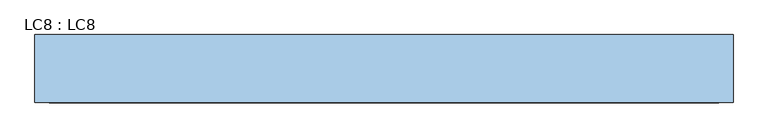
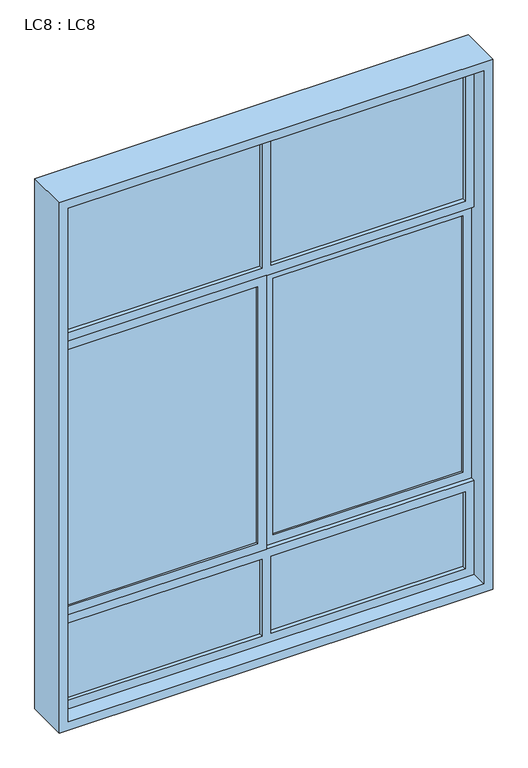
"""IFC4 building model written with IfcOpenShell, lengths in millimetres: window geometry, LC8 : LC8."""

import ifcopenshell
import ifcopenshell.guid

model = None  # the IFC model being written
_history = None  # IfcOwnerHistory: only IFC2X3 demands one
_inside = {}  # id of a spatial element -> (the spatial element, [elements in it])
_under = {}  # id of a project, library or spatial element -> (it, [spatial elements below it])
_declared = {}  # id of a project -> (the project, [libraries it declares])
_typed = {}  # id of a type object -> (the type object, [elements of that type])
_made_of = {}  # id of a material, layer set ... -> (it, [elements and type objects made of it])


def new_model(schema):
    """Start an empty IFC model of exactly this schema.

    Asked for "IFC4X3", IfcOpenShell would pick the latest addendum, in which some entities
    have other attributes; the version numbers below select the first issue.
    IFC2X3 requires an IfcOwnerHistory on every rooted entity: one is made here for all.
    """
    global model, _history
    if schema == "IFC4X3":
        model = ifcopenshell.file(schema_version=(4, 3, 0, 0))
    else:
        model = ifcopenshell.file(schema=schema)
    _inside.clear()
    _under.clear()
    _declared.clear()
    _typed.clear()
    _made_of.clear()
    _history = None
    if model.schema == "IFC2X3":
        org = make("IfcOrganization", Name="unknown")
        user = make(
            "IfcPersonAndOrganization",
            ThePerson=make("IfcPerson", FamilyName="unknown"),
            TheOrganization=org,
        )
        app = make(
            "IfcApplication",
            ApplicationDeveloper=org,
            Version="unknown",
            ApplicationFullName="unknown",
            ApplicationIdentifier="unknown",
        )
        _history = make(
            "IfcOwnerHistory",
            OwningUser=user,
            OwningApplication=app,
            ChangeAction="ADDED",
            CreationDate=0,
        )
    return model


def make(cls, **values):
    """One entity of the class cls with the attributes given. An attribute that is None is left unset."""
    return model.create_entity(
        cls, **{name: value for name, value in values.items() if value is not None}
    )


def rooted(cls, **values):
    """An entity with a GlobalId (a new one), such as an element, a storey or a relation."""
    return make(cls, GlobalId=ifcopenshell.guid.new(), OwnerHistory=_history, **values)


def si_unit(unit_type, name, prefix=None):
    """IfcSIUnit, for example si_unit("LENGTHUNIT", "METRE", prefix="MILLI")."""
    return make("IfcSIUnit", UnitType=unit_type, Prefix=prefix, Name=name)


def assignment(units):
    """IfcUnitAssignment: the units of a project."""
    return None if units is None else make("IfcUnitAssignment", Units=units)


def point(xyz):
    """IfcCartesianPoint."""
    return None if xyz is None else make("IfcCartesianPoint", Coordinates=xyz)


def direction(xyz):
    """IfcDirection."""
    return None if xyz is None else make("IfcDirection", DirectionRatios=xyz)


def frame(location, z_axis=None, x_axis=None):
    """IfcAxis2Placement3D, a coordinate frame: its origin and axes. An axis left out is left unset."""
    return make(
        "IfcAxis2Placement3D",
        Location=point(location),
        Axis=direction(z_axis),
        RefDirection=direction(x_axis),
    )


def origin():
    """The frame at (0, 0, 0) with its axes left unset."""
    return frame((0.0, 0.0, 0.0))


def place(relative_to, where):
    """IfcLocalPlacement: puts the frame where relative to a parent placement (None: the world)."""
    return make(
        "IfcLocalPlacement", PlacementRelTo=relative_to, RelativePlacement=where
    )


def context(
    kind, dimensions, precision=None, world=None, true_north=None, identifier=None
):
    """IfcGeometricRepresentationContext, for example the 3D "Model" context."""
    return make(
        "IfcGeometricRepresentationContext",
        ContextIdentifier=identifier,
        ContextType=kind,
        CoordinateSpaceDimension=dimensions,
        Precision=precision,
        WorldCoordinateSystem=world,
        TrueNorth=true_north,
    )


def project(units=None, contexts=None):
    """IfcProject with its units and contexts."""
    return rooted(
        "IfcProject",
        Name="project",
        RepresentationContexts=contexts,
        UnitsInContext=assignment(units),
    )


def spatial(cls, under=None, at=None, **own):
    """A site, building, storey or space (cls), placed at a placement, below another one or the project."""
    s = rooted(cls, ObjectPlacement=at, **own)
    if under is not None:
        _under.setdefault(under.id(), (under, []))[1].append(s)
    return s


def polyline(points):
    """IfcPolyline through the points."""
    return make("IfcPolyline", Points=[point(p) for p in points])


def outline(outer, holes=None, kind="AREA"):
    """IfcArbitraryClosedProfileDef: a profile drawn as a closed curve; with holes, ...WithVoids."""
    if holes is None:
        return make("IfcArbitraryClosedProfileDef", ProfileType=kind, OuterCurve=outer)
    return make(
        "IfcArbitraryProfileDefWithVoids",
        ProfileType=kind,
        OuterCurve=outer,
        InnerCurves=holes,
    )


def extrude(swept, where, along, depth):
    """IfcExtrudedAreaSolid: the profile swept, set in the frame where, extruded along a direction by depth."""
    return make(
        "IfcExtrudedAreaSolid",
        SweptArea=swept,
        Position=where,
        ExtrudedDirection=direction(along),
        Depth=depth,
    )


def shape(context_of_items, identifier, shape_type, items):
    """IfcShapeRepresentation: the items that make up one representation, for example the "Body"."""
    return make(
        "IfcShapeRepresentation",
        ContextOfItems=context_of_items,
        RepresentationIdentifier=identifier,
        RepresentationType=shape_type,
        Items=items,
    )


def source(mapping_origin, context_of_items, identifier, shape_type, items):
    """IfcRepresentationMap: a shape defined once, which mapped items show again and again."""
    return make(
        "IfcRepresentationMap",
        MappingOrigin=mapping_origin,
        MappedRepresentation=shape(context_of_items, identifier, shape_type, items),
    )


def transform(
    local_origin,
    x_axis=None,
    y_axis=None,
    z_axis=None,
    scale=None,
    scale2=None,
    scale3=None,
    uniform=True,
):
    """IfcCartesianTransformationOperator3D, or its non-uniform kind. x_axis, y_axis, z_axis: its Axis1, 2, 3."""
    if uniform:
        return make(
            "IfcCartesianTransformationOperator3D",
            Axis1=direction(x_axis),
            Axis2=direction(y_axis),
            LocalOrigin=point(local_origin),
            Scale=scale,
            Axis3=direction(z_axis),
        )
    return make(
        "IfcCartesianTransformationOperator3DnonUniform",
        Axis1=direction(x_axis),
        Axis2=direction(y_axis),
        LocalOrigin=point(local_origin),
        Scale=scale,
        Axis3=direction(z_axis),
        Scale2=scale2,
        Scale3=scale3,
    )


def mapped(mapping_source, mapping_target):
    """IfcMappedItem: shows the shape of a source again, moved by a transform."""
    return make(
        "IfcMappedItem", MappingSource=mapping_source, MappingTarget=mapping_target
    )


def made_of(thing, what):
    """Note that an element or type object is made of a material, layer set ...; save() writes the relation."""
    if what is not None:
        _made_of.setdefault(what.id(), (what, []))[1].append(thing)
    return thing


def element(
    cls,
    number,
    at=None,
    inside=None,
    cuts=None,
    type_object=None,
    material=None,
    context=None,
    identifier="Body",
    shape_type=None,
    held_by="IfcProductDefinitionShape",
    body=None,
    shapes=None,
    **own,
):
    """One element of the class cls, such as IfcWall. Its Tag is "e" and its number.

    at: its placement. inside: the storey or other place that contains it. cuts: it is an
    opening in that element (IfcRelVoidsElement). A single representation is given by context,
    identifier, shape_type and body (its items); several are given by shapes. held_by: the class
    of the entity that holds the representations. save() writes the other relations.
    """
    e = rooted(cls, Tag="e%d" % number, ObjectPlacement=at, **own)
    if body is not None:
        shapes = [shape(context, identifier, shape_type, body)]
    if shapes is not None:
        e.Representation = make(held_by, Representations=shapes)
    if inside is not None:
        _inside.setdefault(inside.id(), (inside, []))[1].append(e)
    if cuts is not None:
        rooted(
            "IfcRelVoidsElement", RelatingBuildingElement=cuts, RelatedOpeningElement=e
        )
    if type_object is not None:
        _typed.setdefault(type_object.id(), (type_object, []))[1].append(e)
    return made_of(e, material)


def aggregate(whole, parts):
    """IfcRelAggregates: a whole, such as a stair, and the parts it consists of."""
    return rooted("IfcRelAggregates", RelatingObject=whole, RelatedObjects=parts)


def save(model, path):
    """Write the relations noted so far, then the file.

    IfcRelAggregates (storeys below a building ...), IfcRelContainedInSpatialStructure (elements
    in a storey), IfcRelDefinesByType, IfcRelAssociatesMaterial and IfcRelDeclares: one each for
    every whole, place, type object, material and project.
    """
    for whole, parts in _under.values():
        aggregate(whole, parts)
    for where, things in _inside.values():
        rooted(
            "IfcRelContainedInSpatialStructure",
            RelatedElements=things,
            RelatingStructure=where,
        )
    for kind, things in _typed.values():
        rooted("IfcRelDefinesByType", RelatedObjects=things, RelatingType=kind)
    for what, things in _made_of.values():
        rooted("IfcRelAssociatesMaterial", RelatedObjects=things, RelatingMaterial=what)
    for by, libraries in _declared.values():
        rooted("IfcRelDeclares", RelatingContext=by, RelatedDefinitions=libraries)
    model.write(path)


def lc8_lc8_f37dbe4c(model_context):
    return source(origin(), model_context, "Body", "SweptSolid", [
        extrude(outline(polyline([(-25.0, -2.5), (-1100.0, -2.5), (-1100.0, 2.5), (-25.0, 2.5), (-25.0, -2.5)])), frame((0.0, 0.0, 2550.0), z_axis=(0.0, 0.0, 1.0), x_axis=(1.0, 0.0, 0.0)), (0.0, 0.0, 1.0), 750.0),
        extrude(outline(polyline([(1100.0, -2.5), (25.0, -2.5), (25.0, 2.5), (1100.0, 2.5), (1100.0, -2.5)])), frame((0.0, 0.0, 2550.0), z_axis=(0.0, 0.0, 1.0), x_axis=(1.0, 0.0, 0.0)), (0.0, 0.0, 1.0), 750.0),
        extrude(outline(polyline([(-25.0, -2.5), (-1100.0, -2.5), (-1100.0, 2.5), (-25.0, 2.5), (-25.0, -2.5)])), frame((0.0, 0.0, 400.0), z_axis=(0.0, 0.0, 1.0), x_axis=(1.0, 0.0, 0.0)), (0.0, 0.0, 1.0), 450.0),
        extrude(outline(polyline([(1100.0, -2.5), (25.0, -2.5), (25.0, 2.5), (1100.0, 2.5), (1100.0, -2.5)])), frame((0.0, 0.0, 400.0), z_axis=(0.0, 0.0, 1.0), x_axis=(1.0, 0.0, 0.0)), (0.0, 0.0, 1.0), 450.0),
        extrude(outline(polyline([(1100.0, 10.0), (50.0, 10.0), (50.0, 15.0), (1100.0, 15.0), (1100.0, 10.0)])), frame((0.0, 0.0, 950.0), z_axis=(0.0, 0.0, 1.0), x_axis=(1.0, 0.0, 0.0)), (0.0, 0.0, 1.0), 1500.0),
        extrude(outline(polyline([(-50.0, -15.0), (-1100.0, -15.0), (-1100.0, -10.0), (-50.0, -10.0), (-50.0, -15.0)])), frame((0.0, 0.0, 950.0), z_axis=(0.0, 0.0, 1.0), x_axis=(1.0, 0.0, 0.0)), (0.0, 0.0, 1.0), 1500.0),
        extrude(outline(polyline([(2500.0, 1150.0), (2500.0, 0.0), (900.0, 0.0), (900.0, 1150.0), (2500.0, 1150.0)]), holes=[polyline([(2450.0, 1100.0), (950.0, 1100.0), (950.0, 50.0), (2450.0, 50.0), (2450.0, 1100.0)])]), frame((0.0, 0.0, 0.0), z_axis=(0.0, 1.0, 0.0), x_axis=(0.0, 0.0, 1.0)), (0.0, 0.0, 1.0), 25.0),
        extrude(outline(polyline([(2500.0, 0.0), (2500.0, -1150.0), (900.0, -1150.0), (900.0, 0.0), (2500.0, 0.0)]), holes=[polyline([(2450.0, -50.0), (950.0, -50.0), (950.0, -1100.0), (2450.0, -1100.0), (2450.0, -50.0)])]), frame((0.0, -25.0, 0.0), z_axis=(0.0, 1.0, 0.0), x_axis=(0.0, 0.0, 1.0)), (0.0, 0.0, 1.0), 25.0),
        extrude(outline(polyline([(3350.0, 1150.0), (3350.0, -1150.0), (2500.0, -1150.0), (2500.0, 1150.0), (3350.0, 1150.0)]), holes=[polyline([(3300.0, -25.0), (2550.0, -25.0), (2550.0, -1100.0), (3300.0, -1100.0), (3300.0, -25.0)]), polyline([(3300.0, 1100.0), (2550.0, 1100.0), (2550.0, 25.0), (3300.0, 25.0), (3300.0, 1100.0)])]), frame((0.0, -25.0, 0.0), z_axis=(0.0, 1.0, 0.0), x_axis=(0.0, 0.0, 1.0)), (0.0, 0.0, 1.0), 50.0),
        extrude(outline(polyline([(900.0, 1150.0), (900.0, -1150.0), (350.0, -1150.0), (350.0, 1150.0), (900.0, 1150.0)]), holes=[polyline([(850.0, -25.0), (400.0, -25.0), (400.0, -1100.0), (850.0, -1100.0), (850.0, -25.0)]), polyline([(850.0, 1100.0), (400.0, 1100.0), (400.0, 25.0), (850.0, 25.0), (850.0, 1100.0)])]), frame((0.0, -25.0, 0.0), z_axis=(0.0, 1.0, 0.0), x_axis=(0.0, 0.0, 1.0)), (0.0, 0.0, 1.0), 50.0),
        extrude(outline(polyline([(3400.0, 1200.0), (3400.0, -1200.0), (300.0, -1200.0), (300.0, 1200.0), (3400.0, 1200.0)]), holes=[polyline([(3350.0, 1150.0), (350.0, 1150.0), (350.0, -1150.0), (3350.0, -1150.0), (3350.0, 1150.0)])]), frame((0.0, -117.0, 0.0), z_axis=(0.0, 1.0, 0.0), x_axis=(0.0, 0.0, 1.0)), (0.0, 0.0, 1.0), 234.0),
    ])


if __name__ == "__main__":
    model = new_model("IFC4")
    model_context = context("Model", 3, world=origin())
    ifc_project = project(units=[si_unit("LENGTHUNIT", "METRE", prefix="MILLI")], contexts=[model_context])
    site = spatial("IfcSite", under=ifc_project)
    building = spatial("IfcBuilding", under=site)
    placement = place(None, origin())
    lc8_lc8_shape = lc8_lc8_f37dbe4c(model_context)
    element("IfcWindow", 1, ObjectType="LC8 : LC8", at=placement, inside=building, context=model_context, shape_type="MappedRepresentation", body=[
        mapped(lc8_lc8_shape, transform((0.0, 0.0, 0.0), x_axis=(1.0, 0.0, 0.0), y_axis=(0.0, 1.0, 0.0), z_axis=(0.0, 0.0, 1.0))),
    ])
    save(model, "model.ifc")
